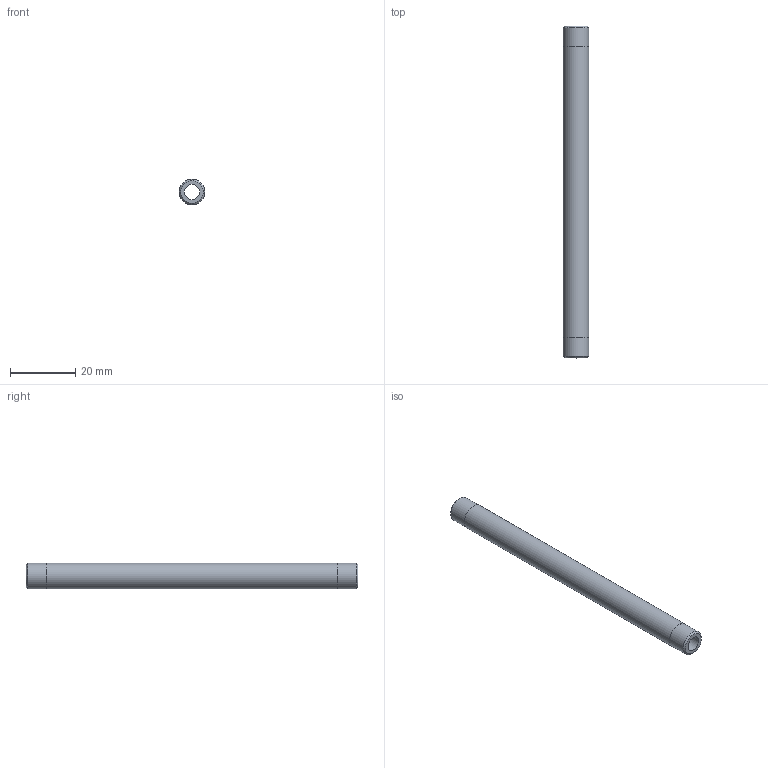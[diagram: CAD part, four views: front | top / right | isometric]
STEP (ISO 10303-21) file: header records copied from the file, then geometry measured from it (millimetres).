
FILE_DESCRIPTION(/* description */ (''),/* implementation_level */ '2;1');
FILE_NAME(/* name */ 'C:/Users/drich/Desktop/cad/Cascades/Jet Cool/Components/Outer Tubes/Threaded Type/SSPN16- v1.step',/* time_stamp */ '2020-01-10T15:17:54-06:00',/* author */ (''),/* organization */ (''),/* preprocessor_version */ 'ST-DEVELOPER v18',/* originating_system */ 'Autodesk Translation Framework v8.12.0.6',/* authorisation */ '');
FILE_SCHEMA (('AUTOMOTIVE_DESIGN { 1 0 10303 214 3 1 1 }'));
Length unit declared in the file: inch
Products named in the file (1): SSPN16-
Bounding box: 7.92 x 101.6 x 7.92 mm (x, y, z)
Volume: 3292 mm3; surface area: 4052.7 mm2
Topology: 1 solids, 1 shells, 10 faces, 24 edges, 18 vertices
Faces by surface type: cylinder 4, plane 4, cone 2
Full cylindrical faces by diameter (mm): 4.623 x1, 7.874 x2, 7.925 x1
Entity records: 360 total; most frequent: DIRECTION 64, CARTESIAN_POINT 53, ORIENTED_EDGE 48, AXIS2_PLACEMENT_3D 29, EDGE_CURVE 24, CIRCLE 18, VERTEX_POINT 18, EDGE_LOOP 14
